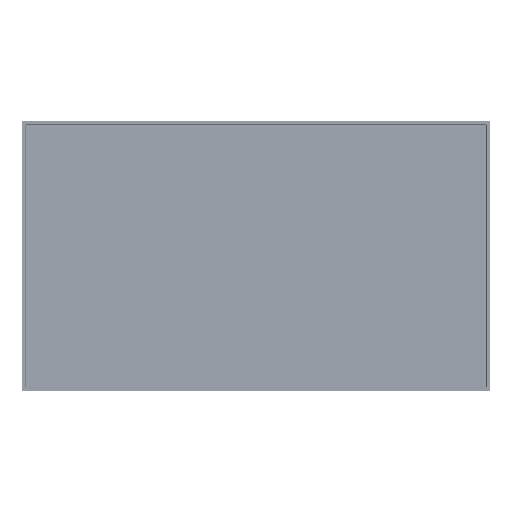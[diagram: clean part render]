
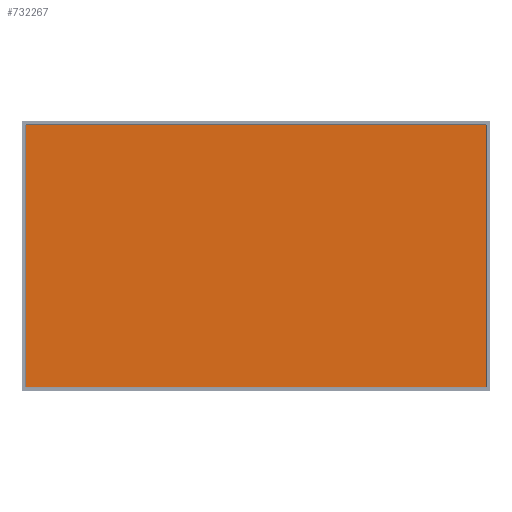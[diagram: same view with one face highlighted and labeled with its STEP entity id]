
A CAD part, top view. The second image highlights one B-rep face of the part: STEP entity #732267.
In plain terms, the highlighted planar face has unit normal (0, 0, 1).
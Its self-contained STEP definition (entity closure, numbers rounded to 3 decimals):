
#6556 = VERTEX_POINT ( 'NONE', #818892 ) ;
#13296 = CARTESIAN_POINT ( 'NONE',  ( 752.45, -752.45, 2. ) ) ;
#34659 = EDGE_CURVE ( 'NONE', #534426, #6556, #778502, .T. ) ;
#49907 = LINE ( 'NONE', #424944, #279890 ) ;
#76743 = VERTEX_POINT ( 'NONE', #376336 ) ;
#81790 = VERTEX_POINT ( 'NONE', #653266 ) ;
#100137 = DIRECTION ( 'NONE',  ( -0.707, -0.707, 0. ) ) ;
#145536 = CARTESIAN_POINT ( 'NONE',  ( -752.45, -752.45, 2. ) ) ;
#153233 = DIRECTION ( 'NONE',  ( 0., 0., 1. ) ) ;
#165485 = DIRECTION ( 'NONE',  ( -0.707, 0.707, 0. ) ) ;
#174823 = LINE ( 'NONE', #316178, #588238 ) ;
#184456 = DIRECTION ( 'NONE',  ( 0.707, 0.707, 0. ) ) ;
#185202 = CARTESIAN_POINT ( 'NONE',  ( -956.7, 548.2, 2. ) ) ;
#206997 = EDGE_CURVE ( 'NONE', #81790, #76743, #174823, .T. ) ;
#212805 = EDGE_CURVE ( 'NONE', #6556, #814102, #232169, .T. ) ;
#215739 = CARTESIAN_POINT ( 'NONE',  ( 0., 0., 2. ) ) ;
#229712 = EDGE_CURVE ( 'NONE', #472003, #81790, #787126, .T. ) ;
#232169 = LINE ( 'NONE', #373383, #395581 ) ;
#279890 = VECTOR ( 'NONE', #100137, 1000. ) ;
#305430 = ORIENTED_EDGE ( 'NONE', *, *, #814721, .T. ) ;
#307011 = ORIENTED_EDGE ( 'NONE', *, *, #564636, .T. ) ;
#311813 = CARTESIAN_POINT ( 'NONE',  ( -957.7, 548.2, 2. ) ) ;
#316178 = CARTESIAN_POINT ( 'NONE',  ( -957.7, -548.2, 2. ) ) ;
#340671 = FACE_OUTER_BOUND ( 'NONE', #708385, .T. ) ;
#356874 = DIRECTION ( 'NONE',  ( -1., 0., 0. ) ) ;
#373383 = CARTESIAN_POINT ( 'NONE',  ( 752.45, 752.45, 2. ) ) ;
#376336 = CARTESIAN_POINT ( 'NONE',  ( 956.7, -548.2, 2. ) ) ;
#394136 = VECTOR ( 'NONE', #753596, 1000. ) ;
#395581 = VECTOR ( 'NONE', #165485, 1000. ) ;
#407285 = DIRECTION ( 'NONE',  ( 1., 0., 0. ) ) ;
#424944 = CARTESIAN_POINT ( 'NONE',  ( -752.45, 752.45, 2. ) ) ;
#457589 = DIRECTION ( 'NONE',  ( 0., 1., 0. ) ) ;
#470324 = DIRECTION ( 'NONE',  ( 0.707, -0.707, 0. ) ) ;
#472003 = VERTEX_POINT ( 'NONE', #496072 ) ;
#494226 = CARTESIAN_POINT ( 'NONE',  ( -957.7, 548.2, 2. ) ) ;
#496072 = CARTESIAN_POINT ( 'NONE',  ( -957.7, -547.2, 2. ) ) ;
#502198 = CARTESIAN_POINT ( 'NONE',  ( 956.7, 548.2, 2. ) ) ;
#507224 = VECTOR ( 'NONE', #184456, 1000. ) ;
#507660 = EDGE_CURVE ( 'NONE', #650389, #776131, #49907, .T. ) ;
#534426 = VERTEX_POINT ( 'NONE', #546645 ) ;
#542123 = EDGE_CURVE ( 'NONE', #814102, #650389, #806988, .T. ) ;
#546645 = CARTESIAN_POINT ( 'NONE',  ( 957.7, -547.2, 2. ) ) ;
#564636 = EDGE_CURVE ( 'NONE', #76743, #534426, #584121, .T. ) ;
#565258 = ORIENTED_EDGE ( 'NONE', *, *, #34659, .T. ) ;
#570284 = CARTESIAN_POINT ( 'NONE',  ( 957.7, 548.2, 2. ) ) ;
#584121 = LINE ( 'NONE', #13296, #507224 ) ;
#588238 = VECTOR ( 'NONE', #695447, 1000. ) ;
#650389 = VERTEX_POINT ( 'NONE', #185202 ) ;
#653266 = CARTESIAN_POINT ( 'NONE',  ( -956.7, -548.2, 2. ) ) ;
#660668 = ORIENTED_EDGE ( 'NONE', *, *, #507660, .T. ) ;
#675360 = ORIENTED_EDGE ( 'NONE', *, *, #212805, .T. ) ;
#682274 = ORIENTED_EDGE ( 'NONE', *, *, #206997, .T. ) ;
#695447 = DIRECTION ( 'NONE',  ( 1., 0., 0. ) ) ;
#703790 = VECTOR ( 'NONE', #356874, 1000. ) ;
#708385 = EDGE_LOOP ( 'NONE', ( #565258, #675360, #800926, #660668, #305430, #803851, #682274, #307011 ) ) ;
#732267 = ADVANCED_FACE ( 'NONE', ( #340671 ), #786617, .T. ) ;
#753596 = DIRECTION ( 'NONE',  ( 0., -1., 0. ) ) ;
#756013 = VECTOR ( 'NONE', #457589, 1000. ) ;
#756723 = VECTOR ( 'NONE', #470324, 1000. ) ;
#766165 = AXIS2_PLACEMENT_3D ( 'NONE', #215739, #153233, #407285 ) ;
#772220 = CARTESIAN_POINT ( 'NONE',  ( -957.7, 547.2, 2. ) ) ;
#776131 = VERTEX_POINT ( 'NONE', #772220 ) ;
#778502 = LINE ( 'NONE', #570284, #756013 ) ;
#786617 = PLANE ( 'NONE',  #766165 ) ;
#787126 = LINE ( 'NONE', #145536, #756723 ) ;
#800926 = ORIENTED_EDGE ( 'NONE', *, *, #542123, .T. ) ;
#803851 = ORIENTED_EDGE ( 'NONE', *, *, #229712, .T. ) ;
#806988 = LINE ( 'NONE', #494226, #703790 ) ;
#814102 = VERTEX_POINT ( 'NONE', #502198 ) ;
#814721 = EDGE_CURVE ( 'NONE', #776131, #472003, #824299, .T. ) ;
#818892 = CARTESIAN_POINT ( 'NONE',  ( 957.7, 547.2, 2. ) ) ;
#824299 = LINE ( 'NONE', #311813, #394136 ) ;
